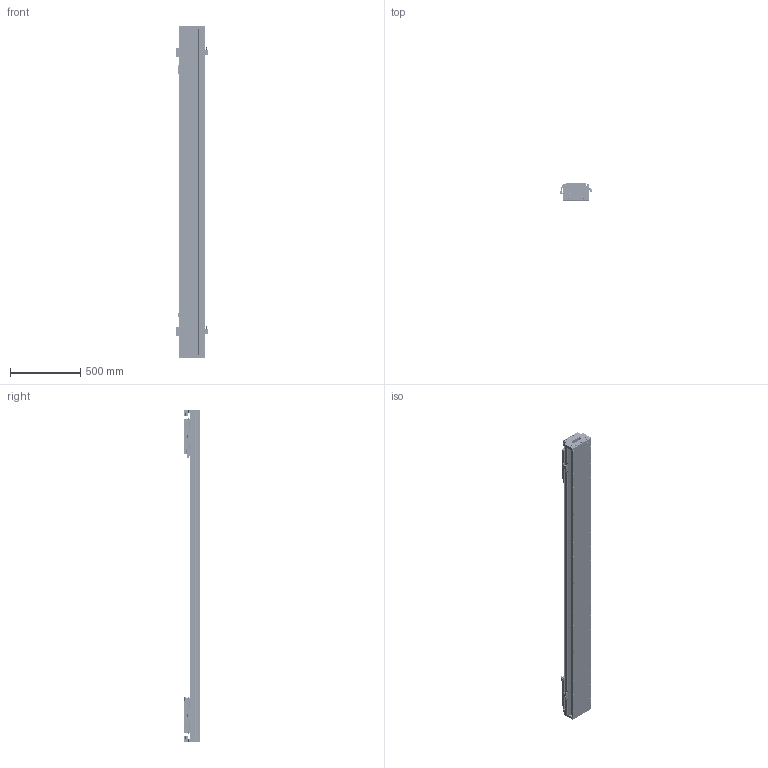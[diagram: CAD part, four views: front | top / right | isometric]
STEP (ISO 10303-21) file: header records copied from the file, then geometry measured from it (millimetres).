
FILE_DESCRIPTION (( 'STEP AP203' ), '1' );
FILE_NAME ('DKW188-2×C3-W090(T1700-L005-0.2).STEP', '2022-03-08T08:53:38', ( '微软用户' ), ( '微软中国' ), 'SwSTEP 2.0', 'SolidWorks 2018', '' );
FILE_SCHEMA (( 'CONFIG_CONTROL_DESIGN' ));
Length unit declared in the file: millimetre
Products named in the file (27): RUS嫖掑喜; DKW188 单轴模组-拉钢带组件; CKMA01-W090-TRLxxx; Ru2; DKW168-HYB-00 賑輸揤啣; 11500-0001-010-00 賑怢啣; DKW168-HXJ-ZJ-00 笢潔滅袉砎蝶; pm-y65; 11899-0001-003-00 傷啣; DKW-GYP-ZJ-00 笢潔嫖萇覜茼え; 10980-0001-003-00 嫖萇羲壽嘐隅釱; DKW168-HXJ-00 遣喳砎蝶; DKW-KGZ-ZJ-00 中间光电开关支架; 嫖萇羲壽蚾饜极; 11899-0001-004-00 詩湍嶺輸; EE_SX674A; 嫖萇羲壽蚾饜极A; 11899-0001-005-00 詩湍揤輸; 11899-0001-001-00 菁釱; CKM03-W090-C1C2-TP-0.2 珨极萇儂; DKW-SG-GYP-H-00 嫖萇覜茼え; 11899-0001-006-00 嶺輸菜輸; SSR25-DG; DKW188-2×C3-W090(T1700-L005-0.2); DKW168-RU-DTJ-00 RU2黍杅芛盓殤; 11899-0001-002-00 詩湍裔啣; SSR25XW1UUC1
Assembly tree (53 placements, depth 3):
  DKW188-2×C3-W090(T1700-L005-0.2)
    11899-0001-001-00 菁釱
    SSR25-DG  x2
    SSR25XW1UUC1  x8
    CKMA01-W090-TRLxxx
    11500-0001-010-00 賑怢啣  x2
    DKW188 单轴模组-拉钢带组件
      11899-0001-003-00 傷啣  x2
      DKW168-HXJ-00 遣喳砎蝶  x4
      11899-0001-004-00 詩湍嶺輸  x2
      11899-0001-005-00 詩湍揤輸  x2
      11899-0001-006-00 嶺輸菜輸  x2
      11899-0001-002-00 詩湍裔啣
    DKW168-HYB-00 賑輸揤啣  x4
    嫖萇羲壽蚾饜极
      pm-y65  x2
      10980-0001-003-00 嫖萇羲壽嘐隅釱
    嫖萇羲壽蚾饜极A
      pm-y65  x2
      10980-0001-003-00 嫖萇羲壽嘐隅釱
    DKW-SG-GYP-H-00 嫖萇覜茼え  x2
    DKW168-RU-DTJ-00 RU2黍杅芛盓殤  x2
    RUS嫖掑喜
    Ru2  x2
    DKW168-HXJ-ZJ-00 笢潔滅袉砎蝶
    DKW-GYP-ZJ-00 笢潔嫖萇覜茼え
    DKW-KGZ-ZJ-00 中间光电开关支架
    EE_SX674A
    CKM03-W090-C1C2-TP-0.2 珨极萇儂  x2
Bounding box: 222.1 x 120 x 2356 mm (x, y, z)
Volume: 20426264.2 mm3; surface area: 4712629.1 mm2
Topology: 56 solids, 154 shells, 7100 faces, 18490 edges, 11727 vertices
Faces by surface type: plane 3570, cylinder 2204, cone 776, bspline 550
Entity records: 122778 total; most frequent: CARTESIAN_POINT 40724, ORIENTED_EDGE 16167, DIRECTION 15836, EDGE_CURVE 8124, AXIS2_PLACEMENT_3D 5443, VERTEX_POINT 5314, VECTOR 4950, LINE 4950
